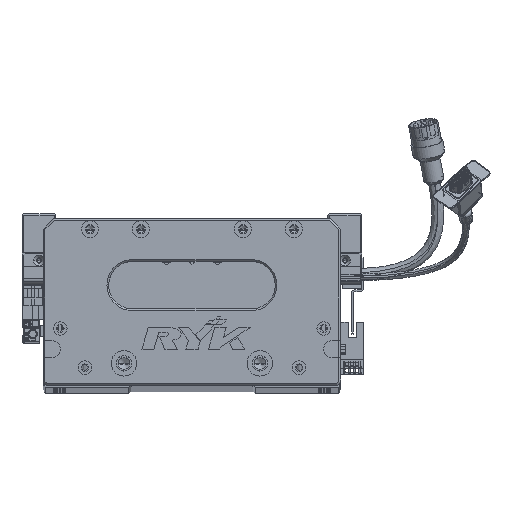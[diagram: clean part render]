
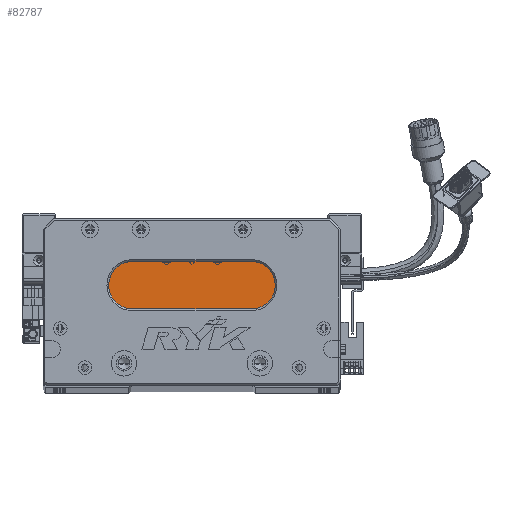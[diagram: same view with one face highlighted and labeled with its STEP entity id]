
A CAD part, top view. The second image highlights one B-rep face of the part: STEP entity #82787.
In plain terms, the highlighted planar face has unit normal (0, 0, 1) as drawn and (0, 0, -1) by its records, which use the part's own axes.
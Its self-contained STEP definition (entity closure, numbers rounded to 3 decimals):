
#828 = AXIS2_PLACEMENT_3D ( 'NONE', #11905, #20690, #108571 ) ;
#1303 = DIRECTION ( 'NONE',  ( 0., 0., -1. ) ) ;
#5093 = DIRECTION ( 'NONE',  ( 0., 0., -1. ) ) ;
#9738 = DIRECTION ( 'NONE',  ( -1., 0., 0. ) ) ;
#10860 = CARTESIAN_POINT ( 'NONE',  ( 122.5, 59., 18. ) ) ;
#11905 = CARTESIAN_POINT ( 'NONE',  ( 52.5, 59., 18. ) ) ;
#12783 = EDGE_LOOP ( 'NONE', ( #73284, #22118, #26733, #110089, #55619 ) ) ;
#13740 = CARTESIAN_POINT ( 'NONE',  ( 122.5, 73., 18. ) ) ;
#14646 = CIRCLE ( 'NONE', #20658, 14. ) ;
#15069 = AXIS2_PLACEMENT_3D ( 'NONE', #100698, #5093, #109471 ) ;
#20658 = AXIS2_PLACEMENT_3D ( 'NONE', #80126, #63945, #90134 ) ;
#20690 = DIRECTION ( 'NONE',  ( 0., 0., -1. ) ) ;
#22118 = ORIENTED_EDGE ( 'NONE', *, *, #90668, .T. ) ;
#22600 = AXIS2_PLACEMENT_3D ( 'NONE', #10860, #1303, #9738 ) ;
#26733 = ORIENTED_EDGE ( 'NONE', *, *, #27509, .T. ) ;
#27509 = EDGE_CURVE ( 'NONE', #33399, #73582, #14646, .T. ) ;
#29668 = VECTOR ( 'NONE', #109809, 1000. ) ;
#31818 = VERTEX_POINT ( 'NONE', #36130 ) ;
#32646 = CARTESIAN_POINT ( 'NONE',  ( 122.5, 73., 18. ) ) ;
#33399 = VERTEX_POINT ( 'NONE', #39400 ) ;
#33484 = VERTEX_POINT ( 'NONE', #13740 ) ;
#34349 = CARTESIAN_POINT ( 'NONE',  ( 38.5, 59., 18. ) ) ;
#36130 = CARTESIAN_POINT ( 'NONE',  ( 52.5, 73., 18. ) ) ;
#39400 = CARTESIAN_POINT ( 'NONE',  ( 52.5, 45., 18. ) ) ;
#42866 = EDGE_CURVE ( 'NONE', #33484, #72353, #68184, .T. ) ;
#55619 = ORIENTED_EDGE ( 'NONE', *, *, #95561, .T. ) ;
#62615 = LINE ( 'NONE', #92979, #29668 ) ;
#63945 = DIRECTION ( 'NONE',  ( 0., 0., -1. ) ) ;
#68184 = CIRCLE ( 'NONE', #15069, 14. ) ;
#72353 = VERTEX_POINT ( 'NONE', #98025 ) ;
#73284 = ORIENTED_EDGE ( 'NONE', *, *, #42866, .T. ) ;
#73582 = VERTEX_POINT ( 'NONE', #34349 ) ;
#78226 = CIRCLE ( 'NONE', #828, 14. ) ;
#80126 = CARTESIAN_POINT ( 'NONE',  ( 52.5, 59., 18. ) ) ;
#81059 = FACE_OUTER_BOUND ( 'NONE', #12783, .T. ) ;
#82787 = ADVANCED_FACE ( 'NONE', ( #81059 ), #107176, .T. ) ;
#90134 = DIRECTION ( 'NONE',  ( -1., 0., 0. ) ) ;
#90591 = VECTOR ( 'NONE', #112900, 1000. ) ;
#90668 = EDGE_CURVE ( 'NONE', #72353, #33399, #62615, .T. ) ;
#92979 = CARTESIAN_POINT ( 'NONE',  ( 122.5, 45., 18. ) ) ;
#95561 = EDGE_CURVE ( 'NONE', #31818, #33484, #108373, .T. ) ;
#98025 = CARTESIAN_POINT ( 'NONE',  ( 122.5, 45., 18. ) ) ;
#100698 = CARTESIAN_POINT ( 'NONE',  ( 122.5, 59., 18. ) ) ;
#105966 = EDGE_CURVE ( 'NONE', #73582, #31818, #78226, .T. ) ;
#107176 = PLANE ( 'NONE',  #22600 ) ;
#108373 = LINE ( 'NONE', #32646, #90591 ) ;
#108571 = DIRECTION ( 'NONE',  ( -1., 0., 0. ) ) ;
#109471 = DIRECTION ( 'NONE',  ( -1., 0., 0. ) ) ;
#109809 = DIRECTION ( 'NONE',  ( -1., 0., 0. ) ) ;
#110089 = ORIENTED_EDGE ( 'NONE', *, *, #105966, .T. ) ;
#112900 = DIRECTION ( 'NONE',  ( 1., 0., 0. ) ) ;
